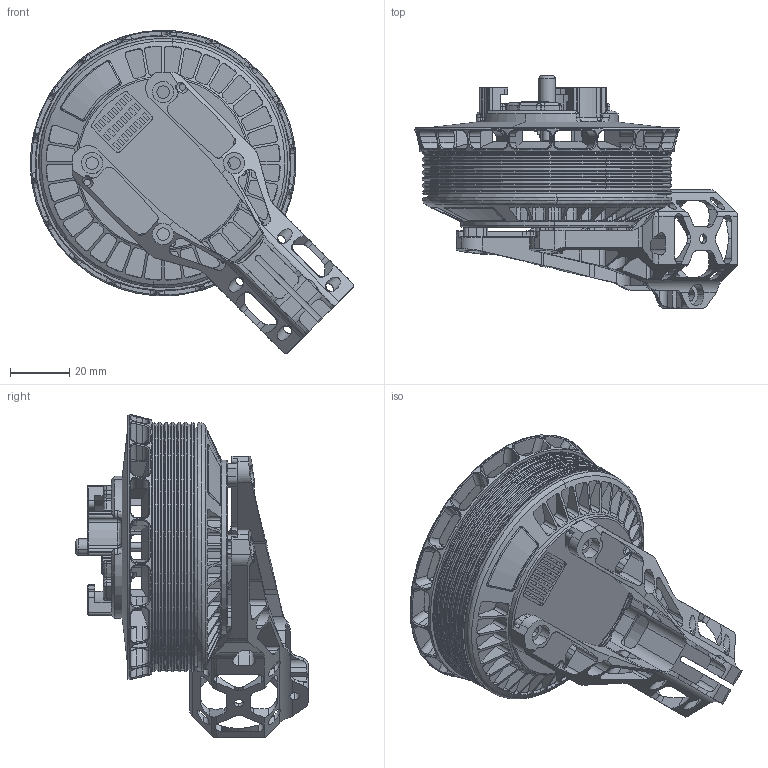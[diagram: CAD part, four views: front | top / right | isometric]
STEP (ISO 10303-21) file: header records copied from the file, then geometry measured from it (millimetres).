
FILE_DESCRIPTION (( 'STEP AP214' ), '1' );
FILE_NAME ('IPET-I7.STEP', '2026-04-03T03:02:36', ( '' ), ( '' ), 'SwSTEP 2.0', 'SolidWorks 2022', '' );
FILE_SCHEMA (( 'AUTOMOTIVE_DESIGN' ));
Length unit declared in the file: millimetre
Products named in the file (1): IPET-I7
Bounding box: 109.18 x 78.4 x 109.18 mm (x, y, z)
Surface area: 54203.4 mm2 (no closed solid volume)
Topology: 0 solids, 29 shells, 1585 faces, 5809 edges, 4122 vertices
Faces by surface type: cylinder 628, plane 489, cone 238, bspline 190, torus 40
Entity records: 106907 total; most frequent: CARTESIAN_POINT 42701, DIRECTION 9352, ORIENTED_EDGE 9302, EDGE_CURVE 5793, VERTEX_POINT 4122, AXIS2_PLACEMENT_3D 3331, VECTOR 2690, LINE 2690
